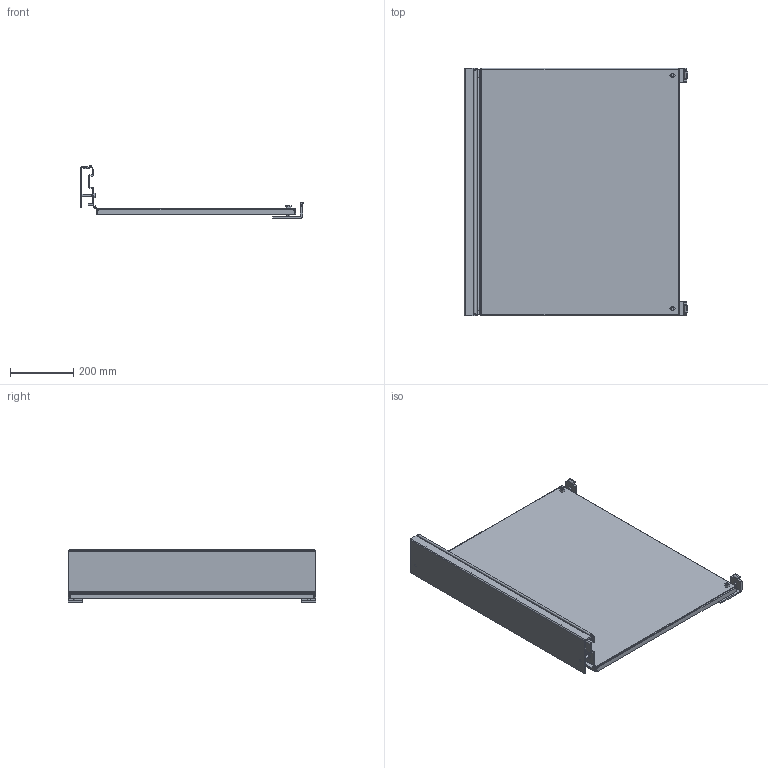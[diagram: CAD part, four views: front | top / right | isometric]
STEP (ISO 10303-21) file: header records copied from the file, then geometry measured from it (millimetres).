
FILE_DESCRIPTION((''),'1');
FILE_NAME('4','2001-04-18T',('jlue'),(''),'PRO/ENGINEER BY PARAMETRIC TECHNOLOGY CORPORATION, 9846','PRO/ENGINEER BY PARAMETRIC TECHNOLOGY CORPORATION, 9846','');
FILE_SCHEMA(('CONFIG_CONTROL_DESIGN'));
Length unit declared in the file: inch
Products named in the file (1): 4
Bounding box: 707.14 x 784.35 x 168.8 mm (x, y, z)
Surface area: 1685257.1 mm2 (no closed solid volume)
Topology: 0 solids, 0 shells, 247 faces, 1342 edges, 1340 vertices
Faces by surface type: plane 137, cylinder 86, torus 12, sphere 8, cone 4
Entity records: 6644 total; most frequent: DIRECTION 1384, COMPOSITE_CURVE_SEGMENT 1296, CARTESIAN_POINT 909, TRIMMED_CURVE 662, AXIS2_PLACEMENT_3D 475, VECTOR 434, LINE 434, CURVE_BOUNDED_SURFACE 247
